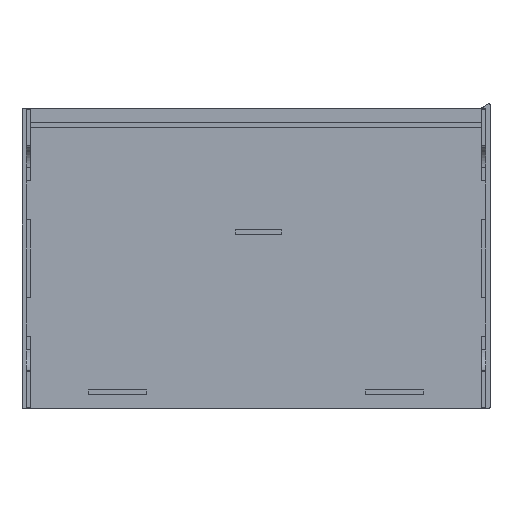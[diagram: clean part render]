
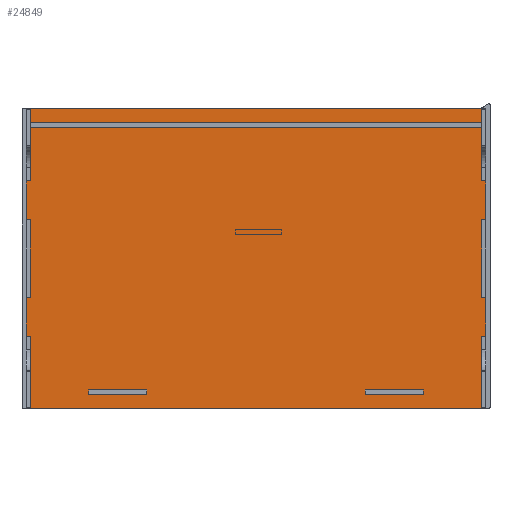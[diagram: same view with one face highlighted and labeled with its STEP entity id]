
A CAD part, front view. The second image highlights one B-rep face of the part: STEP entity #24849.
In plain terms, the highlighted planar face has unit normal (0, -1, 0).
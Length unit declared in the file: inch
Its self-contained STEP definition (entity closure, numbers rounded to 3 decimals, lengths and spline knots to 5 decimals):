
#2086=FACE_BOUND('',#4815,.T.);
#2087=FACE_BOUND('',#4816,.T.);
#3373=FACE_OUTER_BOUND('',#4814,.T.);
#4814=EDGE_LOOP('',(#21899,#21900,#21901,#21902,#21903,#21904,#21905,#21906,
#21907,#21908,#21909,#21910,#21911,#21912,#21913,#21914,#21915,#21916,#21917,
#21918));
#4815=EDGE_LOOP('',(#21919,#21920,#21921,#21922));
#4816=EDGE_LOOP('',(#21923,#21924,#21925,#21926));
#6702=LINE('',#44426,#8986);
#6706=LINE('',#44435,#8990);
#6710=LINE('',#44444,#8994);
#6714=LINE('',#44451,#8998);
#6715=LINE('',#44454,#8999);
#6719=LINE('',#44460,#9003);
#6720=LINE('',#44462,#9004);
#6723=LINE('',#44466,#9007);
#6745=LINE('',#44512,#9029);
#6748=LINE('',#44518,#9032);
#6750=LINE('',#44521,#9034);
#6751=LINE('',#44524,#9035);
#6754=LINE('',#44529,#9038);
#6756=LINE('',#44534,#9040);
#6758=LINE('',#44538,#9042);
#6760=LINE('',#44542,#9044);
#6763=LINE('',#44547,#9047);
#6765=LINE('',#44552,#9049);
#6767=LINE('',#44556,#9051);
#6769=LINE('',#44559,#9053);
#6770=LINE('',#44562,#9054);
#6773=LINE('',#44568,#9057);
#6775=LINE('',#44572,#9059);
#6777=LINE('',#44576,#9061);
#6779=LINE('',#44580,#9063);
#6781=LINE('',#44583,#9065);
#6782=LINE('',#44585,#9066);
#6783=LINE('',#44586,#9067);
#8986=VECTOR('',#28695,0.3937);
#8990=VECTOR('',#28701,0.3937);
#8994=VECTOR('',#28707,0.3937);
#8998=VECTOR('',#28713,0.3937);
#8999=VECTOR('',#28716,0.3937);
#9003=VECTOR('',#28722,0.3937);
#9004=VECTOR('',#28725,0.3937);
#9007=VECTOR('',#28730,0.3937);
#9029=VECTOR('',#28756,0.3937);
#9032=VECTOR('',#28761,0.3937);
#9034=VECTOR('',#28765,0.3937);
#9035=VECTOR('',#28768,0.3937);
#9038=VECTOR('',#28773,0.3937);
#9040=VECTOR('',#28777,0.3937);
#9042=VECTOR('',#28781,0.3937);
#9044=VECTOR('',#28785,0.3937);
#9047=VECTOR('',#28790,0.3937);
#9049=VECTOR('',#28794,0.3937);
#9051=VECTOR('',#28798,0.3937);
#9053=VECTOR('',#28802,0.3937);
#9054=VECTOR('',#28805,0.3937);
#9057=VECTOR('',#28810,0.3937);
#9059=VECTOR('',#28814,0.3937);
#9061=VECTOR('',#28818,0.3937);
#9063=VECTOR('',#28822,0.3937);
#9065=VECTOR('',#28826,0.3937);
#9066=VECTOR('',#28829,0.3937);
#9067=VECTOR('',#28830,0.3937);
#11618=VERTEX_POINT('',#44423);
#11619=VERTEX_POINT('',#44425);
#11622=VERTEX_POINT('',#44432);
#11623=VERTEX_POINT('',#44434);
#11626=VERTEX_POINT('',#44441);
#11627=VERTEX_POINT('',#44443);
#11629=VERTEX_POINT('',#44449);
#11630=VERTEX_POINT('',#44453);
#11652=VERTEX_POINT('',#44509);
#11653=VERTEX_POINT('',#44511);
#11654=VERTEX_POINT('',#44515);
#11655=VERTEX_POINT('',#44517);
#11656=VERTEX_POINT('',#44523);
#11657=VERTEX_POINT('',#44527);
#11658=VERTEX_POINT('',#44531);
#11659=VERTEX_POINT('',#44533);
#11660=VERTEX_POINT('',#44537);
#11661=VERTEX_POINT('',#44541);
#11662=VERTEX_POINT('',#44545);
#11663=VERTEX_POINT('',#44549);
#11664=VERTEX_POINT('',#44551);
#11665=VERTEX_POINT('',#44555);
#11666=VERTEX_POINT('',#44561);
#11667=VERTEX_POINT('',#44565);
#11668=VERTEX_POINT('',#44567);
#11669=VERTEX_POINT('',#44571);
#11670=VERTEX_POINT('',#44575);
#11671=VERTEX_POINT('',#44579);
#15076=EDGE_CURVE('',#11619,#11618,#6702,.T.);
#15080=EDGE_CURVE('',#11623,#11622,#6706,.T.);
#15084=EDGE_CURVE('',#11627,#11626,#6710,.T.);
#15088=EDGE_CURVE('',#11626,#11629,#6714,.T.);
#15089=EDGE_CURVE('',#11630,#11627,#6715,.T.);
#15093=EDGE_CURVE('',#11622,#11619,#6719,.T.);
#15094=EDGE_CURVE('',#11618,#11623,#6720,.T.);
#15097=EDGE_CURVE('',#11629,#11630,#6723,.T.);
#15119=EDGE_CURVE('',#11653,#11652,#6745,.T.);
#15122=EDGE_CURVE('',#11655,#11654,#6748,.T.);
#15124=EDGE_CURVE('',#11652,#11655,#6750,.T.);
#15125=EDGE_CURVE('',#11653,#11656,#6751,.T.);
#15128=EDGE_CURVE('',#11657,#11654,#6754,.T.);
#15130=EDGE_CURVE('',#11659,#11658,#6756,.T.);
#15132=EDGE_CURVE('',#11660,#11659,#6758,.T.);
#15134=EDGE_CURVE('',#11661,#11660,#6760,.T.);
#15137=EDGE_CURVE('',#11662,#11658,#6763,.T.);
#15139=EDGE_CURVE('',#11664,#11663,#6765,.T.);
#15141=EDGE_CURVE('',#11665,#11656,#6767,.T.);
#15143=EDGE_CURVE('',#11663,#11665,#6769,.T.);
#15144=EDGE_CURVE('',#11664,#11666,#6770,.T.);
#15147=EDGE_CURVE('',#11668,#11667,#6773,.T.);
#15149=EDGE_CURVE('',#11669,#11668,#6775,.T.);
#15151=EDGE_CURVE('',#11670,#11669,#6777,.T.);
#15153=EDGE_CURVE('',#11670,#11671,#6779,.T.);
#15155=EDGE_CURVE('',#11661,#11667,#6781,.T.);
#15156=EDGE_CURVE('',#11671,#11657,#6782,.T.);
#15157=EDGE_CURVE('',#11662,#11666,#6783,.T.);
#21899=ORIENTED_EDGE('',*,*,#15128,.F.);
#21900=ORIENTED_EDGE('',*,*,#15156,.F.);
#21901=ORIENTED_EDGE('',*,*,#15153,.F.);
#21902=ORIENTED_EDGE('',*,*,#15151,.T.);
#21903=ORIENTED_EDGE('',*,*,#15149,.T.);
#21904=ORIENTED_EDGE('',*,*,#15147,.T.);
#21905=ORIENTED_EDGE('',*,*,#15155,.F.);
#21906=ORIENTED_EDGE('',*,*,#15134,.T.);
#21907=ORIENTED_EDGE('',*,*,#15132,.T.);
#21908=ORIENTED_EDGE('',*,*,#15130,.T.);
#21909=ORIENTED_EDGE('',*,*,#15137,.F.);
#21910=ORIENTED_EDGE('',*,*,#15157,.T.);
#21911=ORIENTED_EDGE('',*,*,#15144,.F.);
#21912=ORIENTED_EDGE('',*,*,#15139,.T.);
#21913=ORIENTED_EDGE('',*,*,#15143,.T.);
#21914=ORIENTED_EDGE('',*,*,#15141,.T.);
#21915=ORIENTED_EDGE('',*,*,#15125,.F.);
#21916=ORIENTED_EDGE('',*,*,#15119,.T.);
#21917=ORIENTED_EDGE('',*,*,#15124,.T.);
#21918=ORIENTED_EDGE('',*,*,#15122,.T.);
#21919=ORIENTED_EDGE('',*,*,#15089,.T.);
#21920=ORIENTED_EDGE('',*,*,#15084,.T.);
#21921=ORIENTED_EDGE('',*,*,#15088,.T.);
#21922=ORIENTED_EDGE('',*,*,#15097,.T.);
#21923=ORIENTED_EDGE('',*,*,#15094,.T.);
#21924=ORIENTED_EDGE('',*,*,#15080,.T.);
#21925=ORIENTED_EDGE('',*,*,#15093,.T.);
#21926=ORIENTED_EDGE('',*,*,#15076,.T.);
#23546=PLANE('',#25669);
#24849=ADVANCED_FACE('',(#3373,#2086,#2087),#23546,.T.);
#25669=AXIS2_PLACEMENT_3D('',#44584,#28827,#28828);
#28695=DIRECTION('',(-1.,0.,0.));
#28701=DIRECTION('',(1.,0.,0.));
#28707=DIRECTION('',(1.,0.,0.));
#28713=DIRECTION('',(0.,0.,-1.));
#28716=DIRECTION('',(0.,0.,1.));
#28722=DIRECTION('',(0.,0.,-1.));
#28725=DIRECTION('',(0.,0.,1.));
#28730=DIRECTION('',(-1.,0.,0.));
#28756=DIRECTION('',(1.,0.,0.));
#28761=DIRECTION('',(-1.,0.,0.));
#28765=DIRECTION('',(0.,0.,1.));
#28768=DIRECTION('',(0.,0.,-1.));
#28773=DIRECTION('',(0.,0.,-1.));
#28777=DIRECTION('',(1.,0.,0.));
#28781=DIRECTION('',(0.,0.,-1.));
#28785=DIRECTION('',(-1.,0.,0.));
#28790=DIRECTION('',(0.,0.,1.));
#28794=DIRECTION('',(1.,0.,0.));
#28798=DIRECTION('',(-1.,0.,0.));
#28802=DIRECTION('',(0.,0.,1.));
#28805=DIRECTION('',(0.,0.,-1.));
#28810=DIRECTION('',(1.,0.,0.));
#28814=DIRECTION('',(0.,0.,-1.));
#28818=DIRECTION('',(-1.,0.,0.));
#28822=DIRECTION('',(0.,0.,1.));
#28826=DIRECTION('',(0.,0.,1.));
#28827=DIRECTION('center_axis',(0.,-1.,0.));
#28828=DIRECTION('ref_axis',(0.,0.,-1.));
#28829=DIRECTION('',(1.,0.,0.));
#28830=DIRECTION('',(1.,0.,0.));
#44423=CARTESIAN_POINT('',(6.4375,2.5,1.5));
#44425=CARTESIAN_POINT('',(12.4375,2.5,1.5));
#44426=CARTESIAN_POINT('',(0.4375,2.5,1.5));
#44432=CARTESIAN_POINT('',(12.4375,2.5,1.9375));
#44434=CARTESIAN_POINT('',(6.4375,2.5,1.9375));
#44435=CARTESIAN_POINT('',(0.4375,2.5,1.9375));
#44441=CARTESIAN_POINT('',(41.,2.5,1.9375));
#44443=CARTESIAN_POINT('',(35.,2.5,1.9375));
#44444=CARTESIAN_POINT('',(0.4375,2.5,1.9375));
#44449=CARTESIAN_POINT('',(41.,2.5,1.5));
#44451=CARTESIAN_POINT('',(41.,2.5,16.46875));
#44453=CARTESIAN_POINT('',(35.,2.5,1.5));
#44454=CARTESIAN_POINT('',(35.,2.5,16.46875));
#44460=CARTESIAN_POINT('',(12.4375,2.5,16.46875));
#44462=CARTESIAN_POINT('',(6.4375,2.5,16.46875));
#44466=CARTESIAN_POINT('',(0.4375,2.5,1.5));
#44509=CARTESIAN_POINT('',(47.4375,2.5,19.51526));
#44511=CARTESIAN_POINT('',(47.,2.5,19.51526));
#44512=CARTESIAN_POINT('',(47.,2.5,19.51526));
#44515=CARTESIAN_POINT('',(47.,2.5,23.51526));
#44517=CARTESIAN_POINT('',(47.4375,2.5,23.51526));
#44518=CARTESIAN_POINT('',(47.4375,2.5,23.51526));
#44521=CARTESIAN_POINT('',(47.4375,2.5,19.51526));
#44523=CARTESIAN_POINT('',(47.,2.5,11.48474));
#44524=CARTESIAN_POINT('',(47.,2.5,0.));
#44527=CARTESIAN_POINT('',(47.,2.5,31.));
#44529=CARTESIAN_POINT('',(47.,2.5,0.));
#44531=CARTESIAN_POINT('',(0.4375,2.5,7.48474));
#44533=CARTESIAN_POINT('',(0.,2.5,7.48474));
#44534=CARTESIAN_POINT('',(0.,2.5,7.48474));
#44537=CARTESIAN_POINT('',(0.,2.5,11.48474));
#44538=CARTESIAN_POINT('',(0.,2.5,11.48474));
#44541=CARTESIAN_POINT('',(0.4375,2.5,11.48474));
#44542=CARTESIAN_POINT('',(0.4375,2.5,11.48474));
#44545=CARTESIAN_POINT('',(0.4375,2.5,0.));
#44547=CARTESIAN_POINT('',(0.4375,2.5,0.));
#44549=CARTESIAN_POINT('',(47.4375,2.5,7.48474));
#44551=CARTESIAN_POINT('',(47.,2.5,7.48474));
#44552=CARTESIAN_POINT('',(47.4375,2.5,7.48474));
#44555=CARTESIAN_POINT('',(47.4375,2.5,11.48474));
#44556=CARTESIAN_POINT('',(47.,2.5,11.48474));
#44559=CARTESIAN_POINT('',(47.4375,2.5,11.48474));
#44561=CARTESIAN_POINT('',(47.,2.5,0.));
#44562=CARTESIAN_POINT('',(47.,2.5,0.));
#44565=CARTESIAN_POINT('',(0.4375,2.5,19.51526));
#44567=CARTESIAN_POINT('',(0.,2.5,19.51526));
#44568=CARTESIAN_POINT('',(0.4375,2.5,19.51526));
#44571=CARTESIAN_POINT('',(0.,2.5,23.51526));
#44572=CARTESIAN_POINT('',(0.,2.5,19.51526));
#44575=CARTESIAN_POINT('',(0.4375,2.5,23.51526));
#44576=CARTESIAN_POINT('',(0.,2.5,23.51526));
#44579=CARTESIAN_POINT('',(0.4375,2.5,31.));
#44580=CARTESIAN_POINT('',(0.4375,2.5,0.));
#44583=CARTESIAN_POINT('',(0.4375,2.5,0.));
#44584=CARTESIAN_POINT('Origin',(0.4375,2.5,31.));
#44585=CARTESIAN_POINT('',(0.4375,2.5,31.));
#44586=CARTESIAN_POINT('',(0.4375,2.5,0.));
